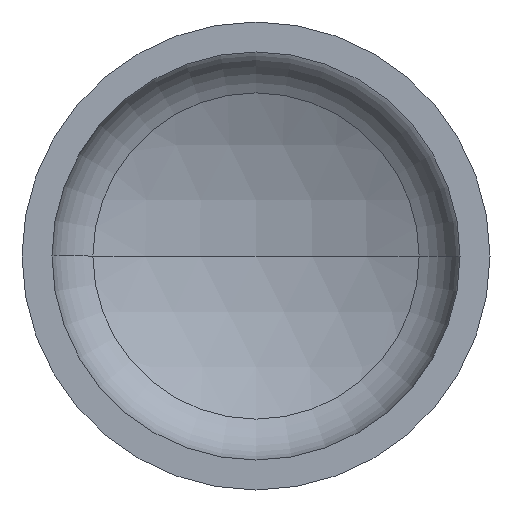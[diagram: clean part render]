
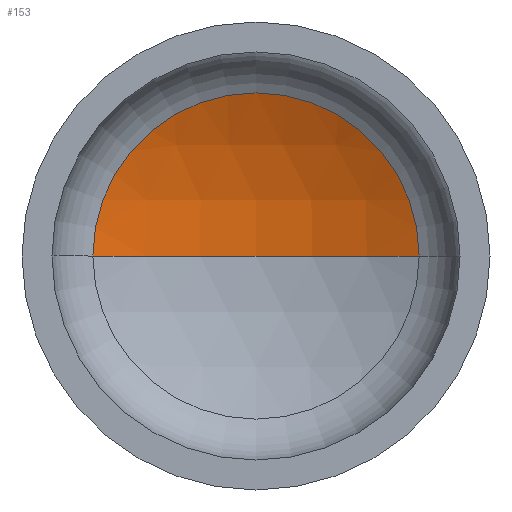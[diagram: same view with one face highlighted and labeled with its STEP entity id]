
A CAD part, front view. The second image highlights one B-rep face of the part: STEP entity #153.
In plain terms, the highlighted spherical face has radius 800 mm.
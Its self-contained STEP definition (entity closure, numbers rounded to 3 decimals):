
#2 = ORIENTED_EDGE ( 'NONE', *, *, #104, .F. ) ;
#3 = ORIENTED_EDGE ( 'NONE', *, *, #102, .T. ) ;
#14 = AXIS2_PLACEMENT_3D ( 'NONE', #185, #376, #32 ) ;
#20 = AXIS2_PLACEMENT_3D ( 'NONE', #320, #321, #325 ) ;
#25 = AXIS2_PLACEMENT_3D ( 'NONE', #175, #168, #371 ) ;
#28 = AXIS2_PLACEMENT_3D ( 'NONE', #195, #220, #218 ) ;
#32 = DIRECTION ( 'NONE',  ( -1., 0., 0. ) ) ;
#43 = VERTEX_POINT ( 'NONE', #396 ) ;
#77 = FACE_OUTER_BOUND ( 'NONE', #120, .T. ) ;
#101 = EDGE_CURVE ( 'NONE', #405, #43, #215, .T. ) ;
#102 = EDGE_CURVE ( 'NONE', #119, #405, #386, .T. ) ;
#104 = EDGE_CURVE ( 'NONE', #119, #43, #259, .T. ) ;
#119 = VERTEX_POINT ( 'NONE', #373 ) ;
#120 = EDGE_LOOP ( 'NONE', ( #2, #3, #287 ) ) ;
#153 = ADVANCED_FACE ( 'NONE', ( #77 ), #203, .F. ) ;
#168 = DIRECTION ( 'NONE',  ( 0., 0., -1. ) ) ;
#175 = CARTESIAN_POINT ( 'NONE',  ( 0., -460.572, 0. ) ) ;
#185 = CARTESIAN_POINT ( 'NONE',  ( 0., -460.572, 0. ) ) ;
#195 = CARTESIAN_POINT ( 'NONE',  ( 0., 259.517, 0. ) ) ;
#203 = SPHERICAL_SURFACE ( 'NONE', #14, 800. ) ;
#215 = CIRCLE ( 'NONE', #28, 348.527 ) ;
#218 = DIRECTION ( 'NONE',  ( 1., 0., 0. ) ) ;
#220 = DIRECTION ( 'NONE',  ( 0., -1., 0. ) ) ;
#250 = CARTESIAN_POINT ( 'NONE',  ( 348.527, 259.517, 0. ) ) ;
#259 = CIRCLE ( 'NONE', #20, 800. ) ;
#287 = ORIENTED_EDGE ( 'NONE', *, *, #101, .T. ) ;
#320 = CARTESIAN_POINT ( 'NONE',  ( 0., -460.572, 0. ) ) ;
#321 = DIRECTION ( 'NONE',  ( 0., 0., 1. ) ) ;
#325 = DIRECTION ( 'NONE',  ( 1., 0., 0. ) ) ;
#371 = DIRECTION ( 'NONE',  ( -1., 0., 0. ) ) ;
#373 = CARTESIAN_POINT ( 'NONE',  ( 0., 339.428, 0. ) ) ;
#376 = DIRECTION ( 'NONE',  ( 0., 0., -1. ) ) ;
#386 = CIRCLE ( 'NONE', #25, 800. ) ;
#396 = CARTESIAN_POINT ( 'NONE',  ( -348.527, 259.517, 0. ) ) ;
#405 = VERTEX_POINT ( 'NONE', #250 ) ;
